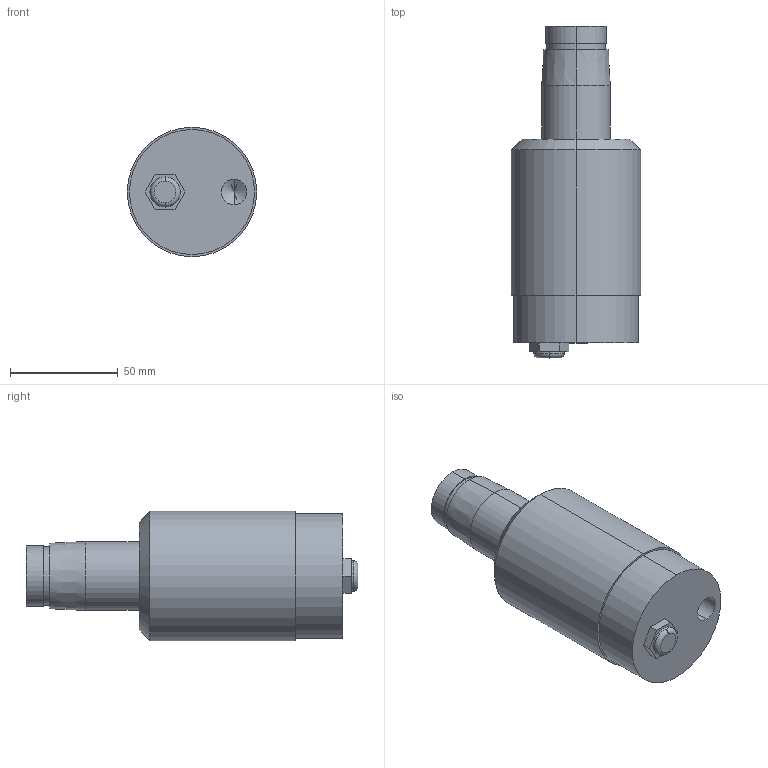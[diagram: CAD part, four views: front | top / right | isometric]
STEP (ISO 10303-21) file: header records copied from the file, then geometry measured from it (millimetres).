
FILE_DESCRIPTION (( 'STEP AP214' ), '1' );
FILE_NAME ('#HPS-40SA.STEP', '2021-10-18T02:00:59', ( '' ), ( '' ), 'SwSTEP 2.0', 'SolidWorks 2016', '' );
FILE_SCHEMA (( 'AUTOMOTIVE_DESIGN' ));
Length unit declared in the file: millimetre
Products named in the file (1): #HPS-40SA
Bounding box: 60 x 154 x 60 mm (x, y, z)
Volume: 297790 mm3; surface area: 29596.2 mm2
Topology: 1 solids, 2 shells, 41 faces, 86 edges, 52 vertices
Faces by surface type: cylinder 16, plane 15, cone 8, torus 2
Entity records: 1192 total; most frequent: DIRECTION 206, CARTESIAN_POINT 176, ORIENTED_EDGE 164, AXIS2_PLACEMENT_3D 82, EDGE_CURVE 82, VERTEX_POINT 52, EDGE_LOOP 48, VECTOR 42
